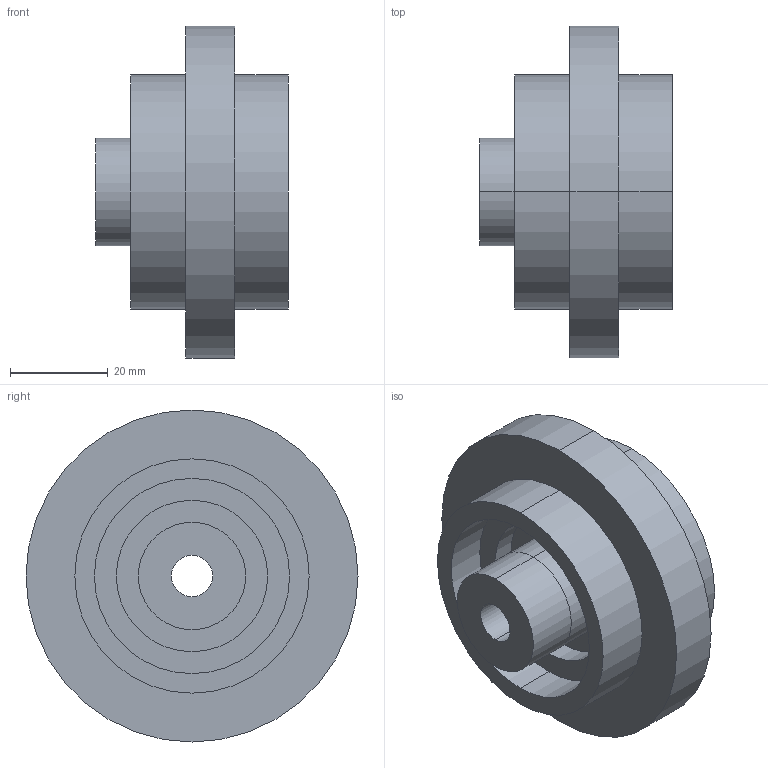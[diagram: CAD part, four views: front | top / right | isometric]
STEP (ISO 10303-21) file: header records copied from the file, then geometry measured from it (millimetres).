
FILE_DESCRIPTION((''),'2;1');
FILE_NAME('RUG4810','2002-12-27T',('Lipro doo'),('Lipro d.o.o.'),'PRO/ENGINEER BY PARAMETRIC TECHNOLOGY CORPORATION, 2001150','PRO/ENGINEER BY PARAMETRIC TECHNOLOGY CORPORATION, 2001150','');
FILE_SCHEMA(('CONFIG_CONTROL_DESIGN'));
Length unit declared in the file: millimetre
Products named in the file (1): RUG4810
Bounding box: 39.5 x 68 x 68 mm (x, y, z)
Volume: 57375 mm3; surface area: 17489.6 mm2
Topology: 1 solids, 1 shells, 31 faces, 62 edges, 40 vertices
Faces by surface type: cylinder 22, plane 9
Entity records: 866 total; most frequent: DIRECTION 164, CARTESIAN_POINT 133, ORIENTED_EDGE 124, AXIS2_PLACEMENT_3D 71, EDGE_CURVE 62, VERTEX_POINT 40, EDGE_LOOP 40, CIRCLE 40
